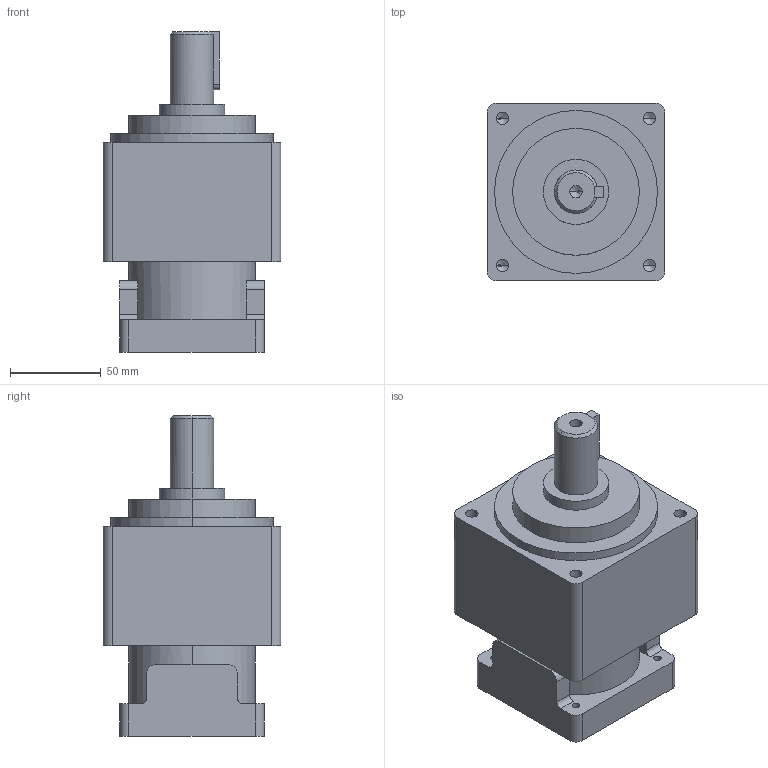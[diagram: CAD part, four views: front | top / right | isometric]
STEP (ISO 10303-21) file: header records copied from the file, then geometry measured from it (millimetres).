
FILE_DESCRIPTION (( 'STEP AP214' ), '1' );
FILE_NAME ('VRSF-100L1.STEP', '2019-09-07T08:54:37', ( '微软用户' ), ( '微软中国' ), 'SwSTEP 2.0', 'SolidWorks 2014', '' );
FILE_SCHEMA (( 'AUTOMOTIVE_DESIGN' ));
Length unit declared in the file: millimetre
Products named in the file (2): VRSF-100L1
Bounding box: 98 x 98 x 177 mm (x, y, z)
Volume: 959672.8 mm3; surface area: 76833.9 mm2
Topology: 2 solids, 2 shells, 724 faces, 2071 edges, 1372 vertices
Faces by surface type: plane 602, bspline 60, cylinder 50, cone 12
Entity records: 30439 total; most frequent: CARTESIAN_POINT 4979, ORIENTED_EDGE 4122, DIRECTION 3374, EDGE_CURVE 2061, LINE 1832, VECTOR 1832, VERTEX_POINT 1372, AXIS2_PLACEMENT_3D 771
